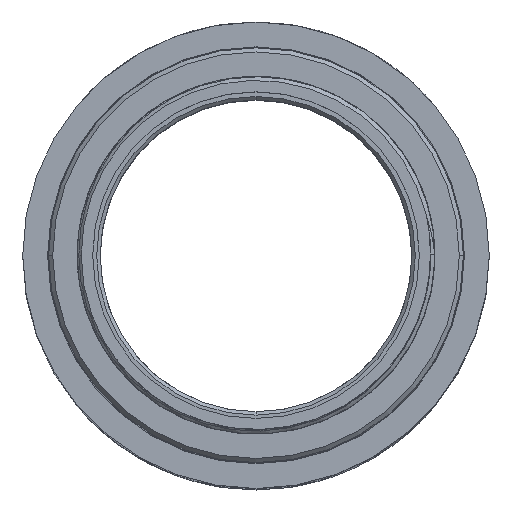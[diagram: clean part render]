
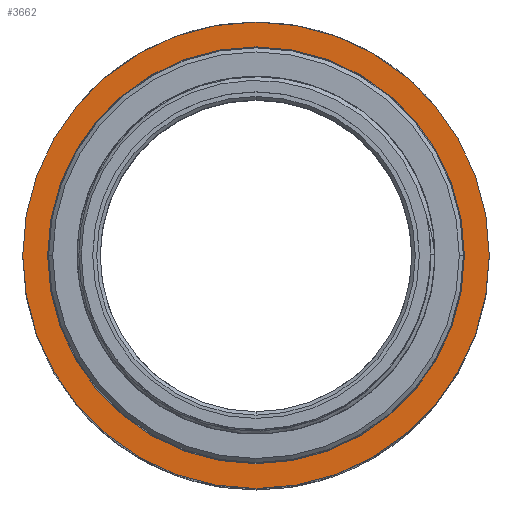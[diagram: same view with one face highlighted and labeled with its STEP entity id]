
A CAD part, top view. The second image highlights one B-rep face of the part: STEP entity #3662.
In plain terms, the highlighted planar face has unit normal (0, 0, 1).
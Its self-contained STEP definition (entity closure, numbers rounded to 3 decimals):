
#2785=CARTESIAN_POINT('',(0.,0.,-8.481));
#2786=DIRECTION('',(0.,0.,1.));
#2787=DIRECTION('',(-1.,0.,0.));
#2788=AXIS2_PLACEMENT_3D('',#2785,#2786,#2787);
#2790=CARTESIAN_POINT('',(0.,0.,-8.481));
#2791=DIRECTION('',(0.,0.,1.));
#2792=DIRECTION('',(1.,0.,0.));
#2793=AXIS2_PLACEMENT_3D('',#2790,#2791,#2792);
#2795=CARTESIAN_POINT('',(0.,0.,-8.481));
#2796=DIRECTION('',(0.,0.,-1.));
#2797=DIRECTION('',(1.,0.,0.));
#2798=AXIS2_PLACEMENT_3D('',#2795,#2796,#2797);
#2800=CARTESIAN_POINT('',(0.,0.,-8.481));
#2801=DIRECTION('',(0.,0.,-1.));
#2802=DIRECTION('',(-1.,0.,0.));
#2803=AXIS2_PLACEMENT_3D('',#2800,#2801,#2802);
#2805=CARTESIAN_POINT('',(-17.145,0.,-8.481));
#2806=CARTESIAN_POINT('',(17.145,0.,-8.481));
#2807=VERTEX_POINT('',#2805);
#2808=VERTEX_POINT('',#2806);
#2817=CARTESIAN_POINT('',(-15.316,0.,-8.481));
#2818=CARTESIAN_POINT('',(15.316,0.,-8.481));
#2819=VERTEX_POINT('',#2817);
#2820=VERTEX_POINT('',#2818);
#3649=CARTESIAN_POINT('',(0.,0.,-8.481));
#3650=DIRECTION('',(0.,0.,1.));
#3651=DIRECTION('',(-1.,0.,0.));
#3652=AXIS2_PLACEMENT_3D('',#3649,#3650,#3651);
#3653=PLANE('',#3652);
#3654=ORIENTED_EDGE('',*,*,#3139,.F.);
#3655=ORIENTED_EDGE('',*,*,#3100,.F.);
#3656=EDGE_LOOP('',(#3654,#3655));
#3657=FACE_OUTER_BOUND('',#3656,.F.);
#3658=ORIENTED_EDGE('',*,*,#2998,.F.);
#3659=ORIENTED_EDGE('',*,*,#3238,.F.);
#3660=EDGE_LOOP('',(#3658,#3659));
#3661=FACE_BOUND('',#3660,.F.);
#3662=ADVANCED_FACE('',(#3657,#3661),#3653,.T.);
#2789=CIRCLE('',#2788,17.145);
#2794=CIRCLE('',#2793,17.145);
#2799=CIRCLE('',#2798,15.316);
#2804=CIRCLE('',#2803,15.316);
#2998=EDGE_CURVE('',#2820,#2819,#2799,.T.);
#3100=EDGE_CURVE('',#2808,#2807,#2794,.T.);
#3139=EDGE_CURVE('',#2807,#2808,#2789,.T.);
#3238=EDGE_CURVE('',#2819,#2820,#2804,.T.);
